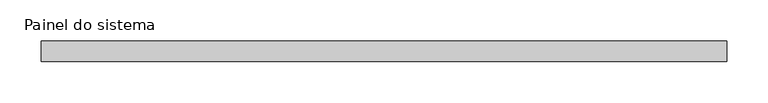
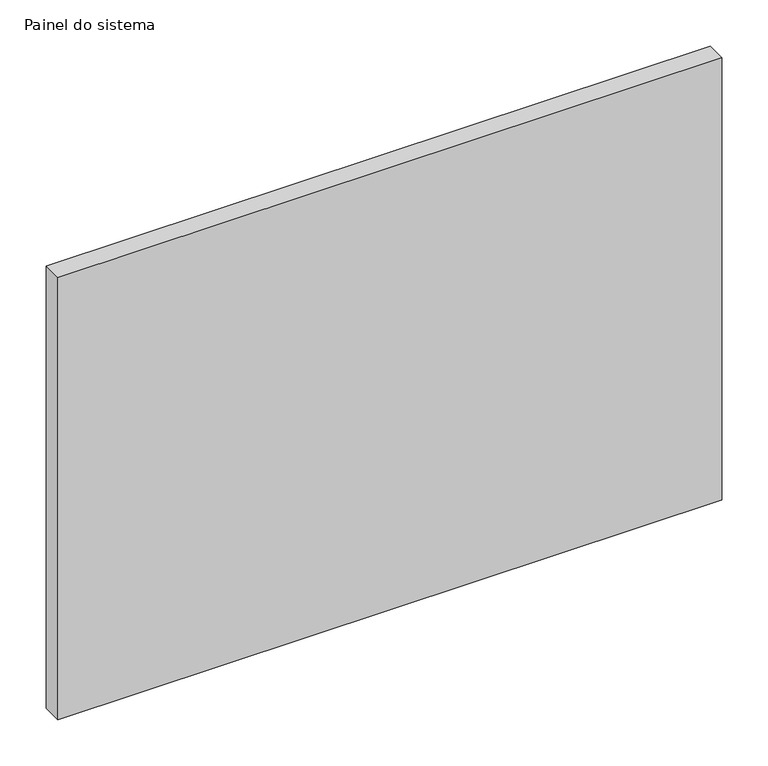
"""IFC4 building model written with IfcOpenShell, lengths in millimetres: plate geometry, Painel do sistema : Envidraçado."""

from ifc_helpers import new_model, si_unit, origin, origin_with_axes, place, context, project, spatial, polyline, outline, extrude, source, transform, mapped, element, save


def painel_do_sistema_986c1072(model_context):
    return source(origin(), model_context, "Body", "SweptSolid", [
        extrude(outline(polyline([(415.0, 24.5), (-415.0, 24.5), (-415.0, 49.5), (415.0, 49.5), (415.0, 24.5)])), origin_with_axes(), (0.0, 0.0, 1.0), 585.0),
    ])


if __name__ == "__main__":
    model = new_model("IFC4")
    model_context = context("Model", 3, world=origin())
    ifc_project = project(units=[si_unit("LENGTHUNIT", "METRE", prefix="MILLI")], contexts=[model_context])
    site = spatial("IfcSite", under=ifc_project)
    building = spatial("IfcBuilding", under=site)
    placement = place(None, origin())
    painel_do_sistema_shape = painel_do_sistema_986c1072(model_context)
    element("IfcPlate", 1, ObjectType="Painel do sistema : Envidraçado", at=placement, inside=building, context=model_context, shape_type="MappedRepresentation", body=[
        mapped(painel_do_sistema_shape, transform((0.0, 0.0, 0.0), x_axis=(1.0, 0.0, 0.0), y_axis=(0.0, 1.0, 0.0), z_axis=(0.0, 0.0, 1.0))),
    ])
    save(model, "model.ifc")
